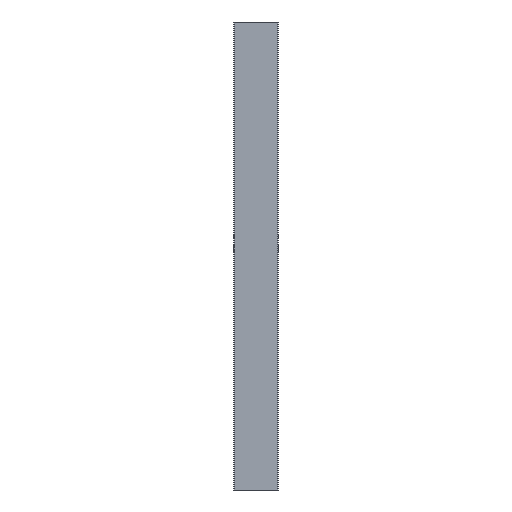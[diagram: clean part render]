
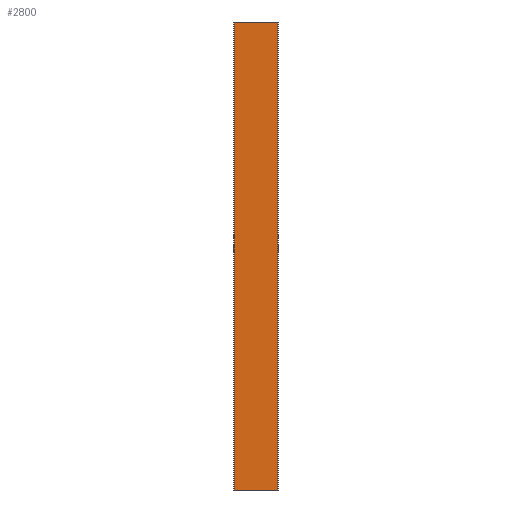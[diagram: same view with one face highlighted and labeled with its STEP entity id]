
A CAD part, left-side view. The second image highlights one B-rep face of the part: STEP entity #2800.
In plain terms, the highlighted planar face has unit normal (-1, 0, 0).
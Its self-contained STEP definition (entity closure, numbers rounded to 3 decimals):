
#174=PLANE('',#3046);
#570=ORIENTED_EDGE('',*,*,#1407,.T.);
#571=ORIENTED_EDGE('',*,*,#1408,.F.);
#572=ORIENTED_EDGE('',*,*,#1387,.F.);
#573=ORIENTED_EDGE('',*,*,#1409,.T.);
#1387=EDGE_CURVE('',#1784,#1785,#1997,.T.);
#1407=EDGE_CURVE('',#1804,#1805,#2004,.T.);
#1408=EDGE_CURVE('',#1785,#1805,#2005,.T.);
#1409=EDGE_CURVE('',#1784,#1804,#2006,.T.);
#1784=VERTEX_POINT('',#4665);
#1785=VERTEX_POINT('',#4667);
#1804=VERTEX_POINT('',#4707);
#1805=VERTEX_POINT('',#4708);
#1997=LINE('',#4666,#2219);
#2004=LINE('',#4706,#2226);
#2005=LINE('',#4709,#2227);
#2006=LINE('',#4710,#2228);
#2219=VECTOR('',#3528,1000.);
#2226=VECTOR('',#3563,1000.);
#2227=VECTOR('',#3564,1000.);
#2228=VECTOR('',#3565,1000.);
#2408=EDGE_LOOP('',(#570,#571,#572,#573));
#2556=FACE_BOUND('',#2408,.T.);
#2800=ADVANCED_FACE('',(#2556),#174,.F.);
#3046=AXIS2_PLACEMENT_3D('',#4705,#3561,#3562);
#3528=DIRECTION('',(0.,-1.,0.));
#3561=DIRECTION('',(1.,0.,0.));
#3562=DIRECTION('',(0.,1.,0.));
#3563=DIRECTION('',(0.,-1.,0.));
#3564=DIRECTION('',(0.,0.,-1.));
#3565=DIRECTION('',(0.,0.,-1.));
#4665=CARTESIAN_POINT('',(-14.,40.5,256.5));
#4666=CARTESIAN_POINT('',(-14.,-7.5,256.5));
#4667=CARTESIAN_POINT('',(-14.,-7.5,256.5));
#4705=CARTESIAN_POINT('',(-14.,-7.5,256.5));
#4706=CARTESIAN_POINT('',(-14.,-7.5,-256.5));
#4707=CARTESIAN_POINT('',(-14.,40.5,-256.5));
#4708=CARTESIAN_POINT('',(-14.,-7.5,-256.5));
#4709=CARTESIAN_POINT('',(-14.,-7.5,256.5));
#4710=CARTESIAN_POINT('',(-14.,40.5,256.5));
